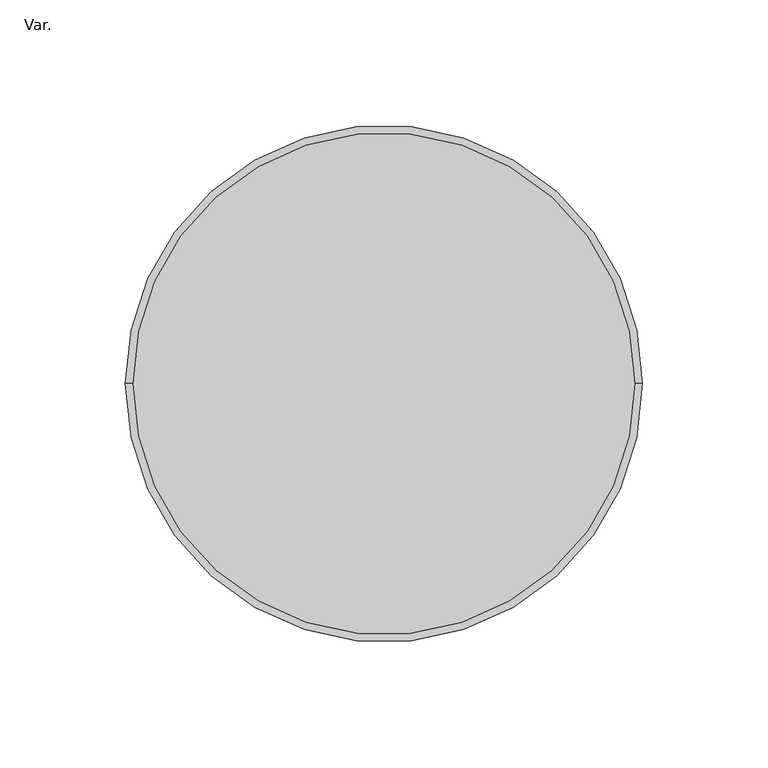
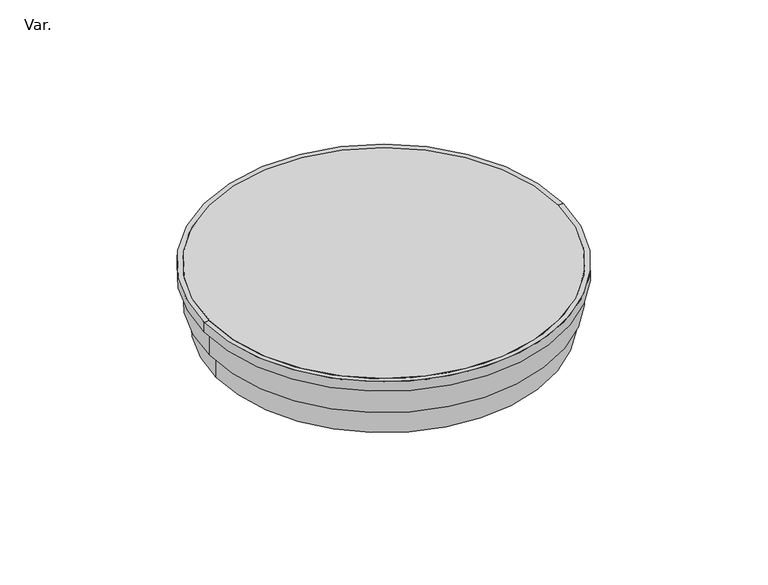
"""IFC4 building model written with IfcOpenShell, lengths in millimetres: pipe fitting geometry, AmancoWavin_ConexõesdeTubos_EsgotoZNãoUsarPortaGrelhaVálvuladeRetenção : Var.."""

from ifc_helpers import new_model, si_unit, point, frame, frame_2d, origin, place, context, project, spatial, polyline, circle_curve, trimmed, segment, composite_curve, outline, extrude, source, transform, mapped, element, save
from ifc_brep_helpers import plane_surface, cylinder_surface, revolved_surface, advanced_brep


def var_bb14af41(model_context):
    return source(origin(), model_context, "Body", "SolidModel", [
        extrude(outline(composite_curve([segment(trimmed(circle_curve(frame_2d((-70.4026442, 0.0)), 100.0), [point((-170.4026442, 0.0))], [point((29.5973558, 0.0))], False, "CARTESIAN"), True, "CONTINUOUS"), segment(trimmed(circle_curve(frame_2d((-70.4026442, 0.0)), 100.0), [point((29.5973558, 0.0))], [point((-170.4026442, 0.0))], False, "CARTESIAN"), True, "CONTINUOUS")], self_intersect=False)), frame((0.0, 0.0, 17.2), z_axis=(0.0, 0.0, 1.0), x_axis=(1.0, 0.0, 0.0)), (0.0, 0.0, 1.0), 3.6),
        advanced_brep(
        [(22.6973558, 0.0, 17.2), (-163.5026442, 0.0, 17.2), (-170.4026442, 0.0, 17.2), (29.5973558, 0.0, 17.2), (22.6973558, 0.0, -15.0), (-163.5026442, 0.0, -15.0), (25.6973558, 0.0, -15.0), (-166.5026442, 0.0, -15.0), (25.6973558, 0.0, 0.0), (-166.5026442, 0.0, 0.0), (29.5973558, 0.0, 0.0), (-170.4026442, 0.0, 0.0), (29.5973558, 0.0, 15.0), (-170.4026442, 0.0, 15.0), (32.5973558, 0.0, 15.0), (-173.4026442, 0.0, 15.0), (32.5973558, 0.0, 20.8), (-173.4026442, 0.0, 20.8), (29.5973558, 0.0, 20.8), (-170.4026442, 0.0, 20.8)],
        [
            (0, 1, circle_curve(frame((-70.4026442, 0.0, 17.2), z_axis=(0.0, 0.0, -1.0), x_axis=(-1.0, 0.0, 0.0)), 93.1)),
            (1, 2),
            (2, 3, circle_curve(frame((-70.4026442, 0.0, 17.2), z_axis=(0.0, 0.0, 1.0), x_axis=(-1.0, 0.0, 0.0)), 100.0)),
            (3, 0),
            (1, 0, circle_curve(frame((-70.4026442, 0.0, 17.2), z_axis=(0.0, 0.0, -1.0), x_axis=(-1.0, 0.0, 0.0)), 93.1)),
            (3, 2, circle_curve(frame((-70.4026442, 0.0, 17.2), z_axis=(0.0, 0.0, 1.0), x_axis=(-1.0, 0.0, 0.0)), 100.0)),
            (4, 5, circle_curve(frame((-70.4026442, 0.0, -15.0), z_axis=(0.0, 0.0, -1.0), x_axis=(-1.0, 0.0, 0.0)), 93.1)),
            (5, 1),
            (0, 4),
            (5, 4, circle_curve(frame((-70.4026442, 0.0, -15.0), z_axis=(0.0, 0.0, -1.0), x_axis=(-1.0, 0.0, 0.0)), 93.1)),
            (6, 7, circle_curve(frame((-70.4026442, 0.0, -15.0), z_axis=(0.0, 0.0, -1.0), x_axis=(-1.0, 0.0, 0.0)), 96.1)),
            (7, 5),
            (4, 6),
            (7, 6, circle_curve(frame((-70.4026442, 0.0, -15.0), z_axis=(0.0, 0.0, -1.0), x_axis=(-1.0, 0.0, 0.0)), 96.1)),
            (8, 9, circle_curve(frame((-70.4026442, 0.0, 0.0), z_axis=(0.0, 0.0, -1.0), x_axis=(-1.0, 0.0, 0.0)), 96.1)),
            (9, 7),
            (6, 8),
            (9, 8, circle_curve(frame((-70.4026442, 0.0, 0.0), z_axis=(0.0, 0.0, -1.0), x_axis=(-1.0, 0.0, 0.0)), 96.1)),
            (10, 11, circle_curve(frame((-70.4026442, 0.0, 0.0), z_axis=(0.0, 0.0, -1.0), x_axis=(-1.0, 0.0, 0.0)), 100.0)),
            (11, 9),
            (8, 10),
            (11, 10, circle_curve(frame((-70.4026442, 0.0, 0.0), z_axis=(0.0, 0.0, -1.0), x_axis=(-1.0, 0.0, 0.0)), 100.0)),
            (12, 13, circle_curve(frame((-70.4026442, 0.0, 15.0), z_axis=(0.0, 0.0, -1.0), x_axis=(-1.0, 0.0, 0.0)), 100.0)),
            (13, 11),
            (10, 12),
            (13, 12, circle_curve(frame((-70.4026442, 0.0, 15.0), z_axis=(0.0, 0.0, -1.0), x_axis=(-1.0, 0.0, 0.0)), 100.0)),
            (14, 15, circle_curve(frame((-70.4026442, 0.0, 15.0), z_axis=(0.0, 0.0, -1.0), x_axis=(-1.0, 0.0, 0.0)), 103.0)),
            (15, 13),
            (12, 14),
            (15, 14, circle_curve(frame((-70.4026442, 0.0, 15.0), z_axis=(0.0, 0.0, -1.0), x_axis=(-1.0, 0.0, 0.0)), 103.0)),
            (16, 17, circle_curve(frame((-70.4026442, 0.0, 20.8), z_axis=(0.0, 0.0, -1.0), x_axis=(-1.0, 0.0, 0.0)), 103.0)),
            (17, 15),
            (14, 16),
            (17, 16, circle_curve(frame((-70.4026442, 0.0, 20.8), z_axis=(0.0, 0.0, -1.0), x_axis=(-1.0, 0.0, 0.0)), 103.0)),
            (18, 19, circle_curve(frame((-70.4026442, 0.0, 20.8), z_axis=(0.0, 0.0, -1.0), x_axis=(-1.0, 0.0, 0.0)), 100.0)),
            (19, 17),
            (16, 18),
            (19, 18, circle_curve(frame((-70.4026442, 0.0, 20.8), z_axis=(0.0, 0.0, -1.0), x_axis=(-1.0, 0.0, 0.0)), 100.0)),
            (2, 19),
            (18, 3),
        ],
        [
            plane_surface(frame((-70.4026442, 0.0, 17.2), z_axis=(0.0, 0.0, 1.0), x_axis=(-1.0, 0.0, 0.0))),
            revolved_surface(polyline([(-163.5026442, 0.0, 17.199999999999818), (-163.5026442, 0.0, -15.0)]), (-70.4026442, 0.0, -2161.3150031), (0.0, 0.0, 1.0)),
            plane_surface(frame((-70.4026442, 0.0, -15.0), z_axis=(0.0, 0.0, -1.0), x_axis=(-1.0, 0.0, 0.0))),
            cylinder_surface(frame((-70.4026442, 0.0, -2161.3150031), z_axis=(0.0, 0.0, 1.0), x_axis=(-1.0, 0.0, 0.0)), 96.1),
            plane_surface(frame((-70.4026442, 0.0, 0.0), z_axis=(0.0, 0.0, -1.0), x_axis=(-1.0, 0.0, 0.0))),
            cylinder_surface(frame((-70.4026442, 0.0, -2161.3150031), z_axis=(0.0, 0.0, 1.0), x_axis=(-1.0, 0.0, 0.0)), 100.0),
            plane_surface(frame((-70.4026442, 0.0, 15.0), z_axis=(0.0, 0.0, -1.0), x_axis=(-1.0, 0.0, 0.0))),
            cylinder_surface(frame((-70.4026442, 0.0, -2161.3150031), z_axis=(0.0, 0.0, 1.0), x_axis=(-1.0, 0.0, 0.0)), 103.0),
            plane_surface(frame((-70.4026442, 0.0, 20.8), z_axis=(0.0, 0.0, 1.0), x_axis=(-1.0, 0.0, 0.0))),
            revolved_surface(polyline([(-170.4026442, 0.0, 20.800000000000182), (-170.4026442, 0.0, 17.199999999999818)]), (-70.4026442, 0.0, -2161.3150031), (0.0, 0.0, 1.0)),
        ],
        [
            (0, [[1, 2, 3, 4]]),
            (0, [[5, -4, 6, -2]]),
            (1, [[7, 8, -1, 9]]),
            (1, [[10, -9, -5, -8]]),
            (2, [[11, 12, -7, 13]]),
            (2, [[14, -13, -10, -12]]),
            (3, [[15, 16, -11, 17]]),
            (3, [[18, -17, -14, -16]]),
            (4, [[19, 20, -15, 21]]),
            (4, [[22, -21, -18, -20]]),
            (5, [[23, 24, -19, 25]]),
            (5, [[26, -25, -22, -24]]),
            (6, [[27, 28, -23, 29]]),
            (6, [[30, -29, -26, -28]]),
            (7, [[31, 32, -27, 33]]),
            (7, [[34, -33, -30, -32]]),
            (8, [[35, 36, -31, 37]]),
            (8, [[38, -37, -34, -36]]),
            (9, [[-3, 39, -35, 40]]),
            (9, [[-6, -40, -38, -39]]),
        ],
    ),
    ])


if __name__ == "__main__":
    model = new_model("IFC4")
    model_context = context("Model", 3, world=origin())
    ifc_project = project(units=[si_unit("LENGTHUNIT", "METRE", prefix="MILLI")], contexts=[model_context])
    site = spatial("IfcSite", under=ifc_project)
    building = spatial("IfcBuilding", under=site)
    placement = place(None, origin())
    var_shape = var_bb14af41(model_context)
    element("IfcPipeFitting", 1, ObjectType="AmancoWavin_ConexõesdeTubos_EsgotoZNãoUsarPortaGrelhaVálvuladeRetenção : Var.", at=placement, inside=building, context=model_context, shape_type="MappedRepresentation", body=[
        mapped(var_shape, transform((0.0, 0.0, 0.0), x_axis=(1.0, 0.0, 0.0), y_axis=(0.0, 1.0, 0.0), z_axis=(0.0, 0.0, 1.0))),
    ])
    save(model, "model.ifc")
